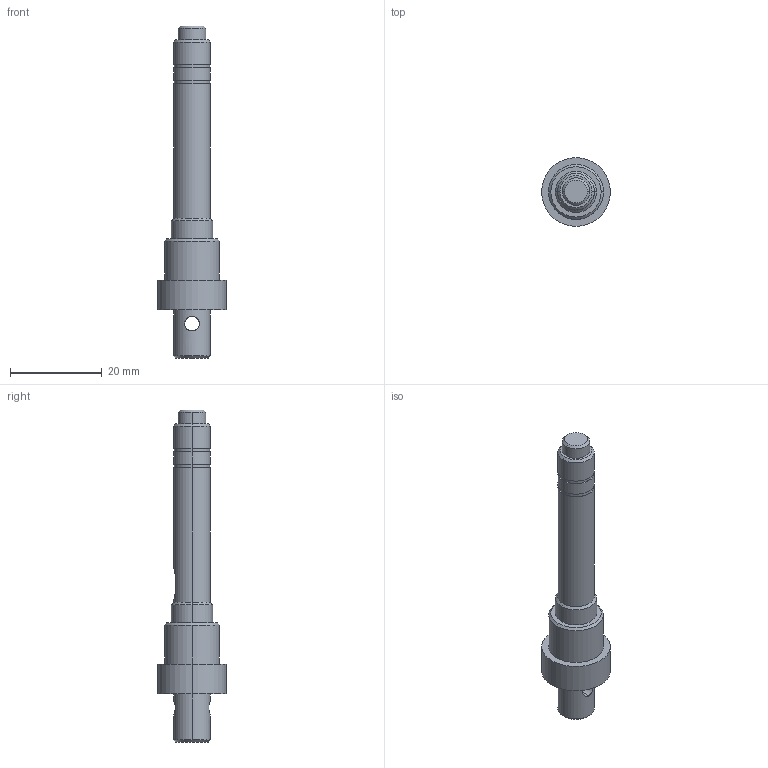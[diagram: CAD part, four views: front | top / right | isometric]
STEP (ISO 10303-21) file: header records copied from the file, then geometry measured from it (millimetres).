
FILE_DESCRIPTION (( 'STEP AP214' ), '1' );
FILE_NAME ('主轴（阶梯.STEP', '2024-11-14T11:44:16', ( '' ), ( '' ), 'SwSTEP 2.0', 'SolidWorks 2021', '' );
FILE_SCHEMA (( 'AUTOMOTIVE_DESIGN' ));
Length unit declared in the file: millimetre
Products named in the file (1): 翋粣ㄗ論枍
Bounding box: 15 x 15 x 72.5 mm (x, y, z)
Volume: 4927.7 mm3; surface area: 2469.7 mm2
Topology: 1 solids, 1 shells, 48 faces, 99 edges, 62 vertices
Faces by surface type: cylinder 25, plane 13, cone 10
Entity records: 1467 total; most frequent: CARTESIAN_POINT 375, DIRECTION 241, ORIENTED_EDGE 198, AXIS2_PLACEMENT_3D 100, EDGE_CURVE 99, VERTEX_POINT 62, EDGE_LOOP 59, CIRCLE 51
